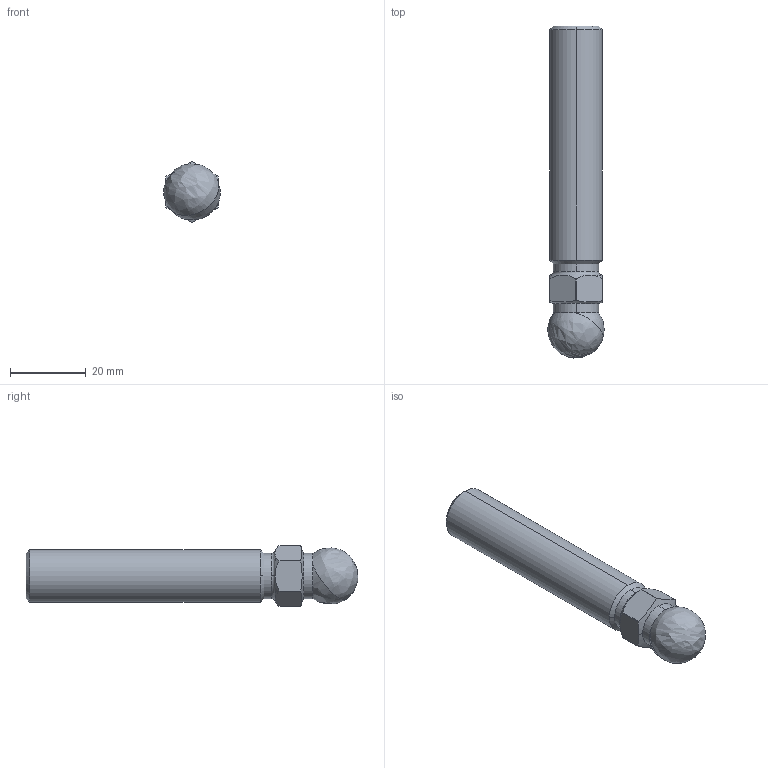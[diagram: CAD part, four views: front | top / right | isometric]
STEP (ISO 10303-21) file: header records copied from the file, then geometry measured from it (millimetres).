
FILE_DESCRIPTION (( 'STEP AP214' ), '1' );
FILE_NAME ('6.04.sptr1466.STEP', '2015-05-31T08:43:35', ( '' ), ( '' ), 'SwSTEP 2.0', 'SolidWorks 2015', '' );
FILE_SCHEMA (( 'AUTOMOTIVE_DESIGN' ));
Length unit declared in the file: millimetre
Products named in the file (1): 6.04.sptr1466
Bounding box: 14.96 x 87.92 x 16.1 mm (x, y, z)
Volume: 13123 mm3; surface area: 4114.6 mm2
Topology: 1 solids, 1 shells, 42 faces, 116 edges, 72 vertices
Faces by surface type: cylinder 13, plane 13, cone 12, bspline 4
Entity records: 1577 total; most frequent: CARTESIAN_POINT 517, ORIENTED_EDGE 224, DIRECTION 213, EDGE_CURVE 112, AXIS2_PLACEMENT_3D 88, VERTEX_POINT 72, CIRCLE 49, EDGE_LOOP 42
